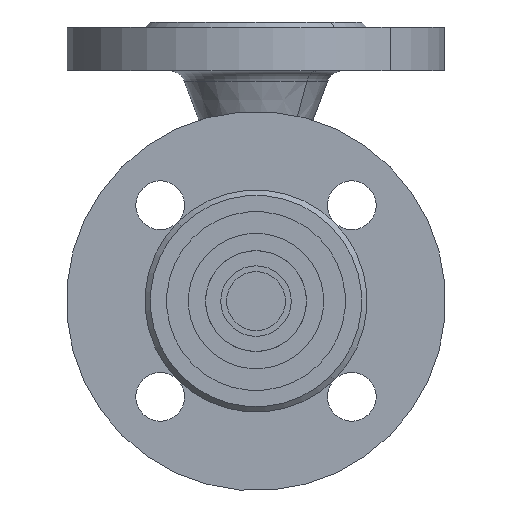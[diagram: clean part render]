
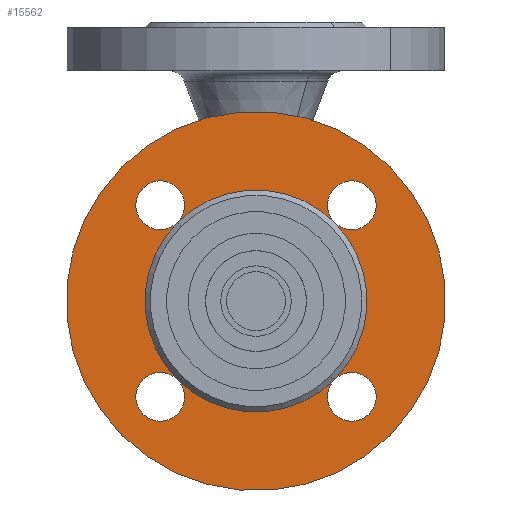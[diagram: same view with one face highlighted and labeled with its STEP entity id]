
A CAD part, front view. The second image highlights one B-rep face of the part: STEP entity #15562.
In plain terms, the highlighted planar face has unit normal (0, -1, 0).
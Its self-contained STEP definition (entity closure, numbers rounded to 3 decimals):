
#16467 = CARTESIAN_POINT ( 'NONE',  ( 59., 2., 0. ) ) ;
#16526 = ORIENTED_EDGE ( 'NONE', *, *, #11313, .T. ) ;
#16571 = CIRCLE ( 'NONE', #16572, 41. ) ;
#16572 = AXIS2_PLACEMENT_3D ( 'NONE', #16573, #16574, #16575 ) ;
#16573 = CARTESIAN_POINT ( 'NONE',  ( 0., 2., 0. ) ) ;
#16574 = DIRECTION ( 'NONE',  ( 0., 1., 0. ) ) ;
#16575 = DIRECTION ( 'NONE',  ( -1., 0., 0. ) ) ;
#356 = EDGE_CURVE ( 'NONE', #8391, #11929, #13084, .T. ) ;
#16756 = CIRCLE ( 'NONE', #16757, 9. ) ;
#16757 = AXIS2_PLACEMENT_3D ( 'NONE', #16760, #16761, #16762 ) ;
#16760 = CARTESIAN_POINT ( 'NONE',  ( 0., 2., 50. ) ) ;
#16761 = DIRECTION ( 'NONE',  ( 0., 1., 0. ) ) ;
#16762 = DIRECTION ( 'NONE',  ( -1., 0., 0. ) ) ;
#16794 = ORIENTED_EDGE ( 'NONE', *, *, #16130, .T. ) ;
#720 = ORIENTED_EDGE ( 'NONE', *, *, #356, .T. ) ;
#17233 = ORIENTED_EDGE ( 'NONE', *, *, #10629, .T. ) ;
#17268 = ORIENTED_EDGE ( 'NONE', *, *, #4283, .T. ) ;
#1030 = EDGE_CURVE ( 'NONE', #17434, #9986, #16571, .T. ) ;
#17434 = VERTEX_POINT ( 'NONE', #8176 ) ;
#1229 = ORIENTED_EDGE ( 'NONE', *, *, #4538, .T. ) ;
#17648 = VERTEX_POINT ( 'NONE', #8342 ) ;
#17987 = ORIENTED_EDGE ( 'NONE', *, *, #18642, .T. ) ;
#1829 = EDGE_CURVE ( 'NONE', #6005, #11101, #6754, .T. ) ;
#18378 = EDGE_CURVE ( 'NONE', #10203, #9986, #9449, .T. ) ;
#2163 = ORIENTED_EDGE ( 'NONE', *, *, #1829, .T. ) ;
#18642 = EDGE_CURVE ( 'NONE', #11101, #17434, #9672, .T. ) ;
#2667 = EDGE_CURVE ( 'NONE', #11747, #8391, #7521, .T. ) ;
#3455 = EDGE_CURVE ( 'NONE', #12885, #13133, #8217, .T. ) ;
#4283 = EDGE_CURVE ( 'NONE', #17648, #17434, #9146, .T. ) ;
#4538 = EDGE_CURVE ( 'NONE', #9986, #8391, #9601, .T. ) ;
#5914 = ORIENTED_EDGE ( 'NONE', *, *, #13343, .F. ) ;
#6005 = VERTEX_POINT ( 'NONE', #10897 ) ;
#6502 = ORIENTED_EDGE ( 'NONE', *, *, #18378, .T. ) ;
#6678 = EDGE_CURVE ( 'NONE', #9986, #10203, #11452, .T. ) ;
#6754 = CIRCLE ( 'NONE', #6755, 9. ) ;
#6755 = AXIS2_PLACEMENT_3D ( 'NONE', #6756, #6757, #6758 ) ;
#6756 = CARTESIAN_POINT ( 'NONE',  ( -50., 2., 0. ) ) ;
#6757 = DIRECTION ( 'NONE',  ( 0., 1., 0. ) ) ;
#6758 = DIRECTION ( 'NONE',  ( -1., 0., 0. ) ) ;
#6827 = CARTESIAN_POINT ( 'NONE',  ( -41., 2., 0. ) ) ;
#6841 = ORIENTED_EDGE ( 'NONE', *, *, #6678, .T. ) ;
#6964 = CIRCLE ( 'NONE', #6965, 9. ) ;
#6965 = AXIS2_PLACEMENT_3D ( 'NONE', #6966, #6967, #6968 ) ;
#6966 = CARTESIAN_POINT ( 'NONE',  ( -50., 2., 0. ) ) ;
#6967 = DIRECTION ( 'NONE',  ( 0., 1., 0. ) ) ;
#6968 = DIRECTION ( 'NONE',  ( -1., 0., 0. ) ) ;
#7063 = CARTESIAN_POINT ( 'NONE',  ( -9., 2., 50. ) ) ;
#7159 = CARTESIAN_POINT ( 'NONE',  ( -9., 2., -50. ) ) ;
#7315 = ORIENTED_EDGE ( 'NONE', *, *, #1030, .T. ) ;
#7521 = CIRCLE ( 'NONE', #7522, 9. ) ;
#7522 = AXIS2_PLACEMENT_3D ( 'NONE', #7523, #7524, #7525 ) ;
#7523 = CARTESIAN_POINT ( 'NONE',  ( 0., 2., -50. ) ) ;
#7524 = DIRECTION ( 'NONE',  ( 0., 1., 0. ) ) ;
#7525 = DIRECTION ( 'NONE',  ( -1., 0., 0. ) ) ;
#7547 = CARTESIAN_POINT ( 'NONE',  ( 9., 2., -50. ) ) ;
#7758 = CIRCLE ( 'NONE', #7759, 9. ) ;
#7759 = AXIS2_PLACEMENT_3D ( 'NONE', #7760, #7761, #7762 ) ;
#7760 = CARTESIAN_POINT ( 'NONE',  ( 0., 2., -50. ) ) ;
#7761 = DIRECTION ( 'NONE',  ( 0., 1., 0. ) ) ;
#7762 = DIRECTION ( 'NONE',  ( -1., 0., 0. ) ) ;
#8176 = CARTESIAN_POINT ( 'NONE',  ( 0., 2., 41. ) ) ;
#8217 = CIRCLE ( 'NONE', #8218, 70. ) ;
#8218 = AXIS2_PLACEMENT_3D ( 'NONE', #8219, #8220, #8221 ) ;
#8219 = CARTESIAN_POINT ( 'NONE',  ( 0., 2., 0. ) ) ;
#8220 = DIRECTION ( 'NONE',  ( 0., 1., 0. ) ) ;
#8221 = DIRECTION ( 'NONE',  ( -1., 0., 0. ) ) ;
#8298 = CARTESIAN_POINT ( 'NONE',  ( 70., 2., 0. ) ) ;
#8342 = CARTESIAN_POINT ( 'NONE',  ( 9., 2., 50. ) ) ;
#8391 = VERTEX_POINT ( 'NONE', #8594 ) ;
#8593 = CARTESIAN_POINT ( 'NONE',  ( -70., 2., 0. ) ) ;
#8594 = CARTESIAN_POINT ( 'NONE',  ( 0., 2., -41. ) ) ;
#8603 = EDGE_CURVE ( 'NONE', #8391, #11101, #8823, .T. ) ;
#8816 = CIRCLE ( 'NONE', #8817, 70. ) ;
#8817 = AXIS2_PLACEMENT_3D ( 'NONE', #8820, #8821, #8822 ) ;
#8820 = CARTESIAN_POINT ( 'NONE',  ( 0., 2., 0. ) ) ;
#8821 = DIRECTION ( 'NONE',  ( 0., 1., 0. ) ) ;
#8822 = DIRECTION ( 'NONE',  ( -1., 0., 0. ) ) ;
#8823 = CIRCLE ( 'NONE', #8824, 41. ) ;
#8824 = AXIS2_PLACEMENT_3D ( 'NONE', #8825, #8826, #8827 ) ;
#8825 = CARTESIAN_POINT ( 'NONE',  ( 0., 2., 0. ) ) ;
#8826 = DIRECTION ( 'NONE',  ( 0., 1., 0. ) ) ;
#8827 = DIRECTION ( 'NONE',  ( -1., 0., 0. ) ) ;
#8889 = ORIENTED_EDGE ( 'NONE', *, *, #8603, .T. ) ;
#9146 = CIRCLE ( 'NONE', #9147, 9. ) ;
#9147 = AXIS2_PLACEMENT_3D ( 'NONE', #9148, #9149, #9150 ) ;
#9148 = CARTESIAN_POINT ( 'NONE',  ( 0., 2., 50. ) ) ;
#9149 = DIRECTION ( 'NONE',  ( 0., 1., 0. ) ) ;
#9150 = DIRECTION ( 'NONE',  ( -1., 0., 0. ) ) ;
#9449 = CIRCLE ( 'NONE', #9450, 9. ) ;
#9450 = AXIS2_PLACEMENT_3D ( 'NONE', #9451, #9452, #9453 ) ;
#9451 = CARTESIAN_POINT ( 'NONE',  ( 50., 2., 0. ) ) ;
#9452 = DIRECTION ( 'NONE',  ( 0., 1., 0. ) ) ;
#9453 = DIRECTION ( 'NONE',  ( -1., 0., 0. ) ) ;
#9601 = CIRCLE ( 'NONE', #9602, 41. ) ;
#9602 = AXIS2_PLACEMENT_3D ( 'NONE', #9603, #9607, #9608 ) ;
#9603 = CARTESIAN_POINT ( 'NONE',  ( 0., 2., 0. ) ) ;
#9607 = DIRECTION ( 'NONE',  ( 0., 1., 0. ) ) ;
#9608 = DIRECTION ( 'NONE',  ( -1., 0., 0. ) ) ;
#9672 = CIRCLE ( 'NONE', #9673, 41. ) ;
#9673 = AXIS2_PLACEMENT_3D ( 'NONE', #9674, #9675, #9676 ) ;
#9674 = CARTESIAN_POINT ( 'NONE',  ( 0., 2., 0. ) ) ;
#9675 = DIRECTION ( 'NONE',  ( 0., 1., 0. ) ) ;
#9676 = DIRECTION ( 'NONE',  ( -1., 0., 0. ) ) ;
#9986 = VERTEX_POINT ( 'NONE', #16256 ) ;
#10203 = VERTEX_POINT ( 'NONE', #16467 ) ;
#10629 = EDGE_CURVE ( 'NONE', #17434, #11481, #16756, .T. ) ;
#10897 = CARTESIAN_POINT ( 'NONE',  ( -59., 2., 0. ) ) ;
#11053 = FACE_OUTER_BOUND ( 'NONE', #15323, .T. ) ;
#11054 = FACE_BOUND ( 'NONE', #14783, .T. ) ;
#11055 = PLANE ( 'NONE',  #11056 ) ;
#11056 = AXIS2_PLACEMENT_3D ( 'NONE', #11057, #11058, #11059 ) ;
#11057 = CARTESIAN_POINT ( 'NONE',  ( 41., 2., 0. ) ) ;
#11058 = DIRECTION ( 'NONE',  ( 0., 1., 0. ) ) ;
#11059 = DIRECTION ( 'NONE',  ( -1., 0., 0. ) ) ;
#11101 = VERTEX_POINT ( 'NONE', #6827 ) ;
#11313 = EDGE_CURVE ( 'NONE', #11101, #6005, #6964, .T. ) ;
#11452 = CIRCLE ( 'NONE', #11453, 9. ) ;
#11453 = AXIS2_PLACEMENT_3D ( 'NONE', #11454, #11455, #11456 ) ;
#11454 = CARTESIAN_POINT ( 'NONE',  ( 50., 2., 0. ) ) ;
#11455 = DIRECTION ( 'NONE',  ( 0., 1., 0. ) ) ;
#11456 = DIRECTION ( 'NONE',  ( -1., 0., 0. ) ) ;
#11481 = VERTEX_POINT ( 'NONE', #7063 ) ;
#11489 = CIRCLE ( 'NONE', #11490, 9. ) ;
#11490 = AXIS2_PLACEMENT_3D ( 'NONE', #11491, #11492, #11493 ) ;
#11491 = CARTESIAN_POINT ( 'NONE',  ( 0., 2., 50. ) ) ;
#11492 = DIRECTION ( 'NONE',  ( 0., 1., 0. ) ) ;
#11493 = DIRECTION ( 'NONE',  ( -1., 0., 0. ) ) ;
#11747 = VERTEX_POINT ( 'NONE', #7159 ) ;
#11929 = VERTEX_POINT ( 'NONE', #7547 ) ;
#12305 = EDGE_CURVE ( 'NONE', #11929, #11747, #7758, .T. ) ;
#12885 = VERTEX_POINT ( 'NONE', #8298 ) ;
#13084 = CIRCLE ( 'NONE', #13085, 9. ) ;
#13085 = AXIS2_PLACEMENT_3D ( 'NONE', #13086, #13087, #13088 ) ;
#13086 = CARTESIAN_POINT ( 'NONE',  ( 0., 2., -50. ) ) ;
#13087 = DIRECTION ( 'NONE',  ( 0., 1., 0. ) ) ;
#13088 = DIRECTION ( 'NONE',  ( -1., 0., 0. ) ) ;
#13133 = VERTEX_POINT ( 'NONE', #8593 ) ;
#13343 = EDGE_CURVE ( 'NONE', #13133, #12885, #8816, .T. ) ;
#13564 = ORIENTED_EDGE ( 'NONE', *, *, #2667, .T. ) ;
#14228 = ORIENTED_EDGE ( 'NONE', *, *, #12305, .T. ) ;
#14783 = EDGE_LOOP ( 'NONE', ( #1229, #720, #14228, #13564, #8889, #16526, #2163, #17987, #17233, #16794, #17268, #7315, #6841, #6502 ) ) ;
#15020 = ORIENTED_EDGE ( 'NONE', *, *, #3455, .F. ) ;
#15323 = EDGE_LOOP ( 'NONE', ( #5914, #15020 ) ) ;
#15562 = ADVANCED_FACE ( 'NONE', ( #11053, #11054 ), #11055, .F. ) ;
#16130 = EDGE_CURVE ( 'NONE', #11481, #17648, #11489, .T. ) ;
#16256 = CARTESIAN_POINT ( 'NONE',  ( 41., 2., 0. ) ) ;
